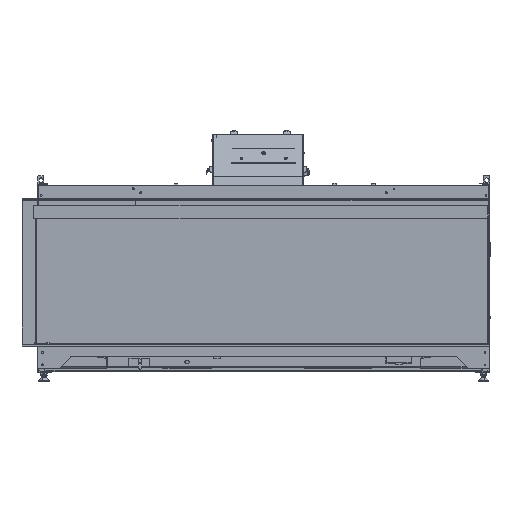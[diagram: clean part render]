
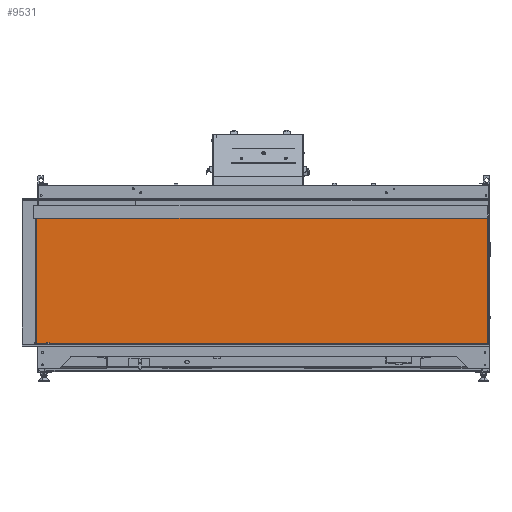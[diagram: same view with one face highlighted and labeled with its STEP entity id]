
A CAD part, top view. The second image highlights one B-rep face of the part: STEP entity #9531.
In plain terms, the highlighted planar face has unit normal (0, 0, 1).
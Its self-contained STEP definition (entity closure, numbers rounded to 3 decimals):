
#4212 = CARTESIAN_POINT ( 'NONE',  ( -21.331, 1511.554, 2014.229 ) ) ;
#4790 = DIRECTION ( 'NONE',  ( 0., -1., 0. ) ) ;
#7114 = EDGE_CURVE ( 'NONE', #16510, #31317, #51557, .T. ) ;
#7207 = DIRECTION ( 'NONE',  ( 1., 0., 0. ) ) ;
#8302 = VECTOR ( 'NONE', #21117, 1000. ) ;
#8385 = CARTESIAN_POINT ( 'NONE',  ( -21.331, 635.554, 2014.229 ) ) ;
#9531 = ADVANCED_FACE ( 'NONE', ( #42711 ), #52729, .T. ) ;
#14334 = EDGE_CURVE ( 'NONE', #53555, #16510, #33031, .T. ) ;
#15440 = CARTESIAN_POINT ( 'NONE',  ( 632.169, 635.554, 2014.229 ) ) ;
#16510 = VERTEX_POINT ( 'NONE', #63303 ) ;
#16808 = VECTOR ( 'NONE', #4790, 1000. ) ;
#17246 = CARTESIAN_POINT ( 'NONE',  ( -674.831, 635.554, 2014.229 ) ) ;
#17914 = AXIS2_PLACEMENT_3D ( 'NONE', #8385, #63095, #28121 ) ;
#20862 = VECTOR ( 'NONE', #23943, 1000. ) ;
#21117 = DIRECTION ( 'NONE',  ( 0., -1., 0. ) ) ;
#23943 = DIRECTION ( 'NONE',  ( -1., 0., 0. ) ) ;
#24841 = LINE ( 'NONE', #15440, #16808 ) ;
#26238 = EDGE_CURVE ( 'NONE', #53555, #42222, #24841, .T. ) ;
#28121 = DIRECTION ( 'NONE',  ( 1., 0., 0. ) ) ;
#31168 = LINE ( 'NONE', #46373, #45962 ) ;
#31317 = VERTEX_POINT ( 'NONE', #62958 ) ;
#33031 = LINE ( 'NONE', #4212, #20862 ) ;
#40488 = ORIENTED_EDGE ( 'NONE', *, *, #44001, .T. ) ;
#42222 = VERTEX_POINT ( 'NONE', #63862 ) ;
#42711 = FACE_OUTER_BOUND ( 'NONE', #54078, .T. ) ;
#44001 = EDGE_CURVE ( 'NONE', #31317, #42222, #31168, .T. ) ;
#45962 = VECTOR ( 'NONE', #7207, 1000. ) ;
#46373 = CARTESIAN_POINT ( 'NONE',  ( -21.331, 1143.554, 2014.229 ) ) ;
#50721 = ORIENTED_EDGE ( 'NONE', *, *, #26238, .F. ) ;
#51557 = LINE ( 'NONE', #17246, #8302 ) ;
#52729 = PLANE ( 'NONE',  #17914 ) ;
#53555 = VERTEX_POINT ( 'NONE', #58967 ) ;
#54078 = EDGE_LOOP ( 'NONE', ( #55737, #40488, #50721, #60992 ) ) ;
#55737 = ORIENTED_EDGE ( 'NONE', *, *, #7114, .T. ) ;
#58967 = CARTESIAN_POINT ( 'NONE',  ( 632.169, 1511.554, 2014.229 ) ) ;
#60992 = ORIENTED_EDGE ( 'NONE', *, *, #14334, .T. ) ;
#62958 = CARTESIAN_POINT ( 'NONE',  ( -674.831, 1143.554, 2014.229 ) ) ;
#63095 = DIRECTION ( 'NONE',  ( 0., 0., 1. ) ) ;
#63303 = CARTESIAN_POINT ( 'NONE',  ( -674.831, 1511.554, 2014.229 ) ) ;
#63862 = CARTESIAN_POINT ( 'NONE',  ( 632.169, 1143.554, 2014.229 ) ) ;
